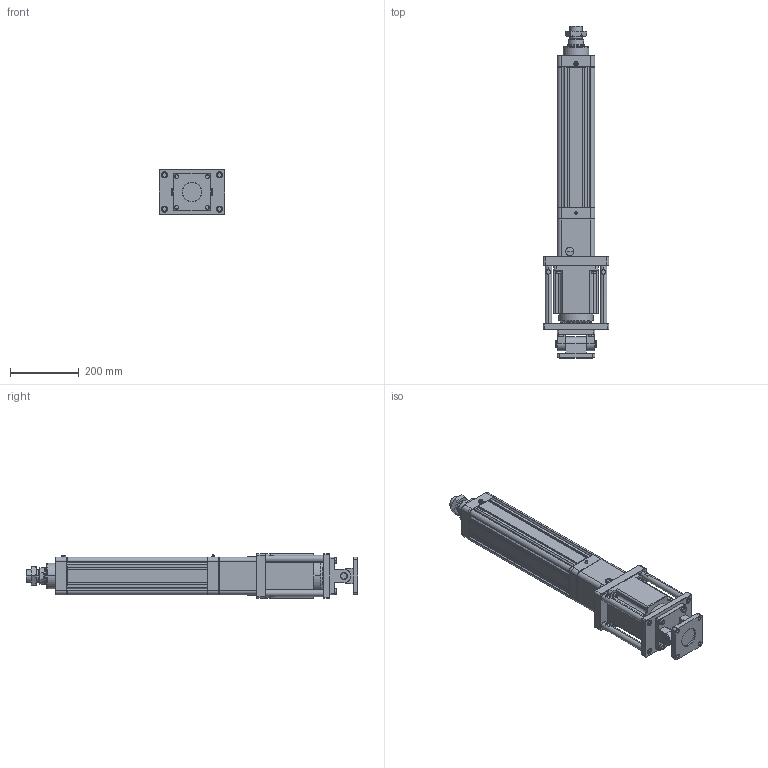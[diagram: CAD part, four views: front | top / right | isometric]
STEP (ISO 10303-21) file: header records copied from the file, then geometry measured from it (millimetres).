
FILE_DESCRIPTION((''),'2;1');
FILE_NAME('HE100-D-P_ASM','2020-05-13T',('ASUS20200'),(''),'CREO PARAMETRIC BY PTC INC, 2014190','CREO PARAMETRIC BY PTC INC, 2014190','');
FILE_SCHEMA(('CONFIG_CONTROL_DESIGN'));
Length unit declared in the file: millimetre
Products named in the file (27): HE100-D-P-001-X1; HE100-D-P-002-X1; HE100-D-P-003-X1; 30305J; JDB506030; SLM-01; YZ-M6X1; HE100-100-D-P-X1_ASM; HE100-D-009-X1; HE100-D-010-X1-130N; M8X20; 130ST-M10010; TD-8; M8X40; SKT-20; HE100-D-P-005-X1; HE100-D-P-004-X1; HE80-D-P-008-X1; LGLM-M10-25; HE100-FB-LG; F-HE100FB; M10X30; F-SE100CB; F-SE100CB-XD; F-SE100CB_ASM; F-SE100CA; HE100-D-P_ASM
Assembly tree (54 placements, depth 3):
  HE100-D-P_ASM
    HE100-100-D-P-X1_ASM
      HE100-D-P-001-X1
      HE100-D-P-002-X1
      HE100-D-P-003-X1
      30305J  x2
      JDB506030
      SLM-01
      YZ-M6X1
    HE100-D-009-X1
    HE100-D-010-X1-130N
    M8X20  x4
    130ST-M10010
    TD-8  x4
    M8X40  x4
    SKT-20  x2
    HE100-D-P-005-X1
    HE100-D-P-004-X1
    HE80-D-P-008-X1
    LGLM-M10-25  x4
    HE100-FB-LG  x4
    F-HE100FB
    M10X30  x12
    F-SE100CB_ASM
      F-SE100CB
      F-SE100CB-XD
    F-SE100CA
Bounding box: 190 x 964 x 130 mm (x, y, z)
Volume: 7107581.6 mm3; surface area: 1317866.2 mm2
Topology: 52 solids, 87 shells, 2699 faces, 6188 edges, 3706 vertices
Faces by surface type: plane 924, cone 828, cylinder 779, torus 134, sphere 30, bspline 4
Entity records: 59463 total; most frequent: CARTESIAN_POINT 11000, DIRECTION 10831, ORIENTED_EDGE 9302, EDGE_CURVE 4706, AXIS2_PLACEMENT_3D 4189, VERTEX_POINT 2816, VECTOR 2453, LINE 2453
